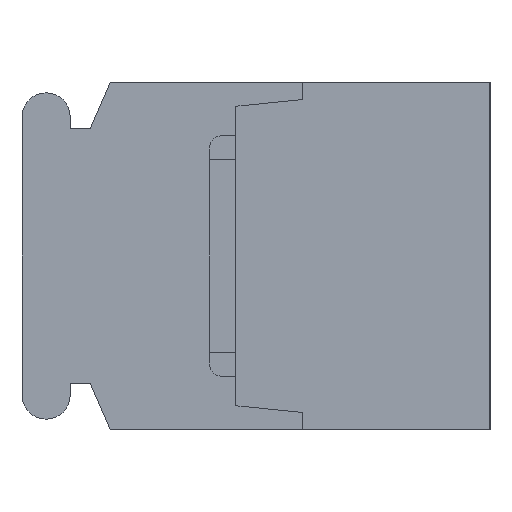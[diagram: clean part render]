
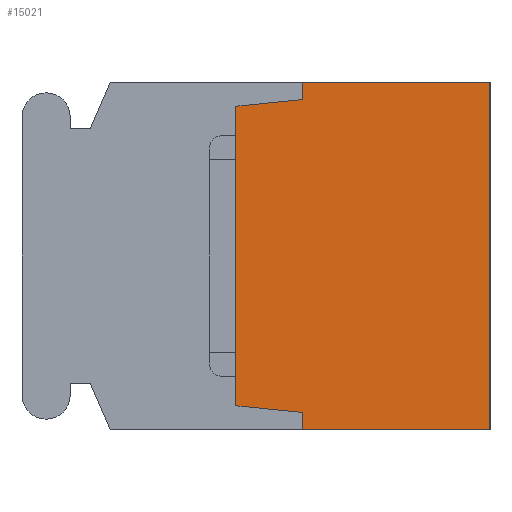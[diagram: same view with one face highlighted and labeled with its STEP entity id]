
A CAD part, left-side view. The second image highlights one B-rep face of the part: STEP entity #15021.
In plain terms, the highlighted planar face has unit normal (-1, 0, 0).
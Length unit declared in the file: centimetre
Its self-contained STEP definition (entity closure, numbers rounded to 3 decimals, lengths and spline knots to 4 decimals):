
#1212=VECTOR('',#16764,1.);
#1237=VECTOR('',#16790,1.);
#1291=VECTOR('',#16860,1.);
#1928=VECTOR('',#18485,1.);
#1929=VECTOR('',#18486,1.);
#1930=VECTOR('',#18487,1.);
#1931=VECTOR('',#18488,1.);
#1932=VECTOR('',#18489,1.);
#2882=LINE('',#21005,#1212);
#2907=LINE('',#21054,#1237);
#2961=LINE('',#21165,#1291);
#3598=LINE('',#23294,#1928);
#3599=LINE('',#23296,#1929);
#3600=LINE('',#23298,#1930);
#3601=LINE('',#23300,#1931);
#3602=LINE('',#23302,#1932);
#4486=VERTEX_POINT('',#21002);
#4487=VERTEX_POINT('',#21004);
#4511=VERTEX_POINT('',#21055);
#4555=VERTEX_POINT('',#21164);
#5168=VERTEX_POINT('',#23295);
#5169=VERTEX_POINT('',#23297);
#5170=VERTEX_POINT('',#23299);
#5171=VERTEX_POINT('',#23301);
#6477=EDGE_CURVE('',#4487,#4486,#2882,.T.);
#6502=EDGE_CURVE('',#4486,#4511,#2907,.T.);
#6558=EDGE_CURVE('',#4555,#4487,#2961,.T.);
#7499=EDGE_CURVE('',#5168,#4555,#3598,.T.);
#7500=EDGE_CURVE('',#5169,#5168,#3599,.T.);
#7501=EDGE_CURVE('',#5170,#5169,#3600,.T.);
#7502=EDGE_CURVE('',#5171,#5170,#3601,.T.);
#7503=EDGE_CURVE('',#4511,#5171,#3602,.T.);
#11473=ORIENTED_EDGE('',*,*,#6477,.F.);
#11474=ORIENTED_EDGE('',*,*,#6558,.F.);
#11475=ORIENTED_EDGE('',*,*,#7499,.F.);
#11476=ORIENTED_EDGE('',*,*,#7500,.F.);
#11477=ORIENTED_EDGE('',*,*,#7501,.F.);
#11478=ORIENTED_EDGE('',*,*,#7502,.F.);
#11479=ORIENTED_EDGE('',*,*,#7503,.F.);
#11480=ORIENTED_EDGE('',*,*,#6502,.F.);
#13223=EDGE_LOOP('',(#11473,#11474,#11475,#11476,#11477,#11478,#11479,#11480));
#14165=FACE_BOUND('',#13223,.T.);
#15021=ADVANCED_FACE('',(#14165),#15704,.F.);
#15704=PLANE('',#25699);
#16764=DIRECTION('',(0.,0.,-1.));
#16790=DIRECTION('',(0.,1.,0.));
#16860=DIRECTION('',(0.,-1.,0.));
#18484=DIRECTION('',(1.,0.,0.));
#18485=DIRECTION('',(0.,0.,1.));
#18486=DIRECTION('',(0.,-0.995,0.1));
#18487=DIRECTION('',(0.,0.,1.));
#18488=DIRECTION('',(0.,0.995,0.1));
#18489=DIRECTION('',(0.,0.,1.));
#21002=CARTESIAN_POINT('',(-1.84,0.,-0.65));
#21004=CARTESIAN_POINT('',(-1.84,0.,0.65));
#21005=CARTESIAN_POINT('',(-1.84,0.,0.65));
#21054=CARTESIAN_POINT('',(-1.84,0.,-0.65));
#21055=CARTESIAN_POINT('',(-1.84,0.7,-0.65));
#21164=CARTESIAN_POINT('',(-1.84,0.7,0.65));
#21165=CARTESIAN_POINT('',(-1.84,0.7,0.65));
#23293=CARTESIAN_POINT('',(-1.84,0.4626,0.));
#23294=CARTESIAN_POINT('',(-1.84,0.7,0.585));
#23295=CARTESIAN_POINT('',(-1.84,0.7,0.585));
#23296=CARTESIAN_POINT('',(-1.84,0.95,0.56));
#23297=CARTESIAN_POINT('',(-1.84,0.95,0.56));
#23298=CARTESIAN_POINT('',(-1.84,0.95,-0.56));
#23299=CARTESIAN_POINT('',(-1.84,0.95,-0.56));
#23300=CARTESIAN_POINT('',(-1.84,0.7,-0.585));
#23301=CARTESIAN_POINT('',(-1.84,0.7,-0.585));
#23302=CARTESIAN_POINT('',(-1.84,0.7,-0.65));
#25699=AXIS2_PLACEMENT_3D('',#23293,#18484,$);
